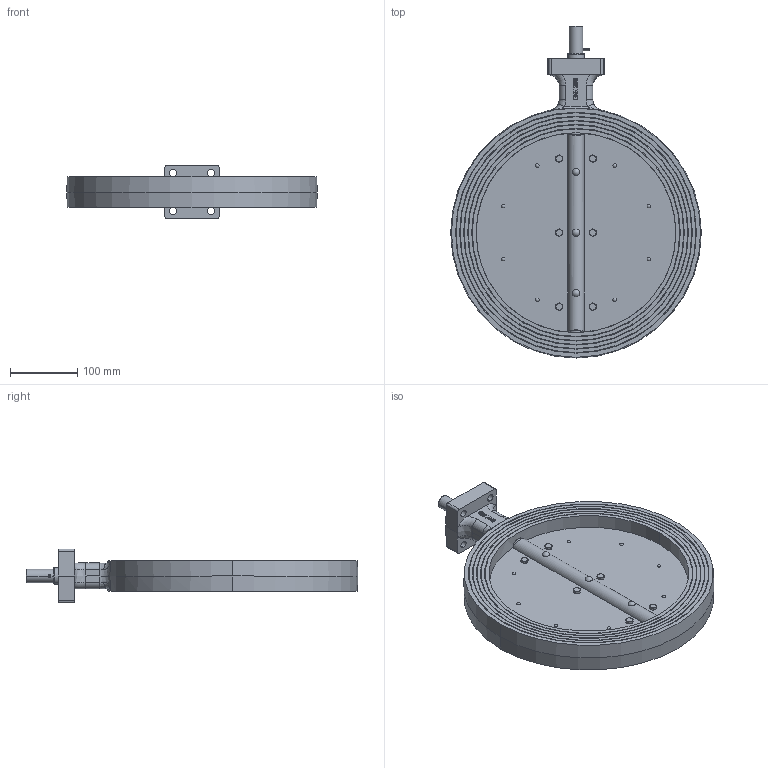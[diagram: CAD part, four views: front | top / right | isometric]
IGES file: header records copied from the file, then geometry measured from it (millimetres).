
Global section: file name: No Iges File Name specified; native system: AutoDesk Inventor R12.0; preprocessor: AutoDesk Inventor Iges Exporter R12.0; date: 20100826.104401; units: millimetre
Bounding box: 372.18 x 493.09 x 80 mm (x, y, z)
Volume: 2353799.6 mm3; surface area: 468144 mm2
Topology: 1 solids, 1 shells, 725 faces, 1828 edges, 1172 vertices
Faces by surface type: plane 313, bspline 115, cone 108, cylinder 94, revolution 69, sphere 22, torus 4
